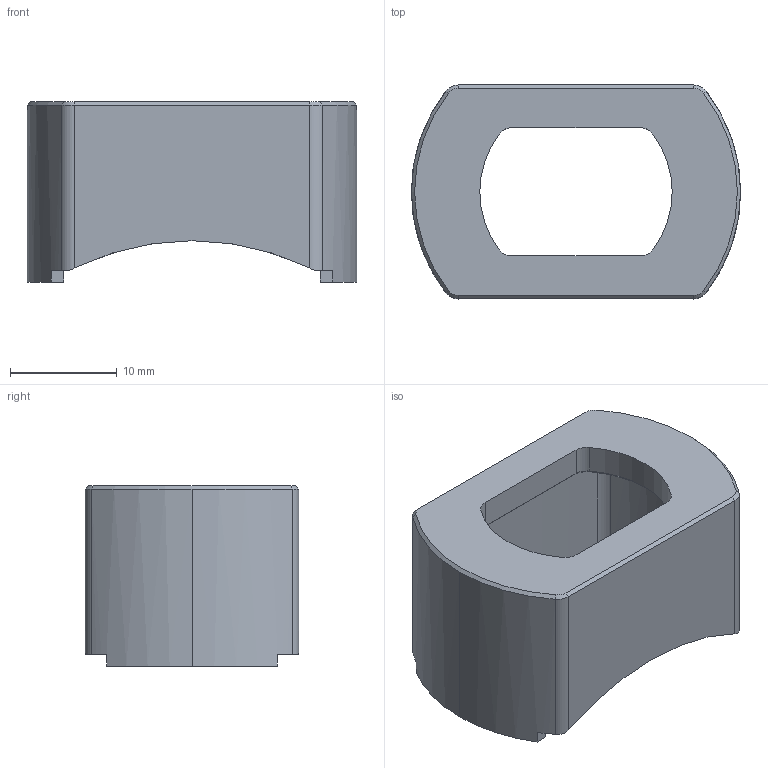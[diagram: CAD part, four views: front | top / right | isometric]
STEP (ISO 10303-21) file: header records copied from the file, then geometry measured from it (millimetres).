
FILE_DESCRIPTION(('CATIA V5 STEP Exchange','CAx-IF Rec.Pracs.--- Model Styling and Organization---1.4--- 2014-01-23','CAx-IF Rec.Pracs.---3D Tessellated Data Validation Properties---0.5---2014-09-14'),'2;1');
FILE_NAME('C:\Users\IS33\Desktop\220112移動データ\手配用データ\DT341M508-00-.stp','2022-01-12T09:44:14+00:00',('none'),('none'),'CATIA Version 5-6 Release 2019 SP3','CATIA V5 STEP AP242 v1','none');
FILE_SCHEMA(('AP242_MANAGED_MODEL_BASED_3D_ENGINEERING_MIM_LF {1 0 10303 442 1 1 4}'));
Length unit declared in the file: millimetre
Products named in the file (1): spacer3_3-3
Bounding box: 30.8 x 20 x 16.88 mm (x, y, z)
Volume: 3408.9 mm3; surface area: 3134.1 mm2
Topology: 1 solids, 1 shells, 70 faces, 200 edges, 132 vertices
Faces by surface type: cylinder 26, plane 22, cone 22
Entity records: 2236 total; most frequent: CARTESIAN_POINT 450, ORIENTED_EDGE 400, DIRECTION 306, EDGE_CURVE 200, AXIS2_PLACEMENT_3D 154, VERTEX_POINT 132, VECTOR 92, LINE 92
